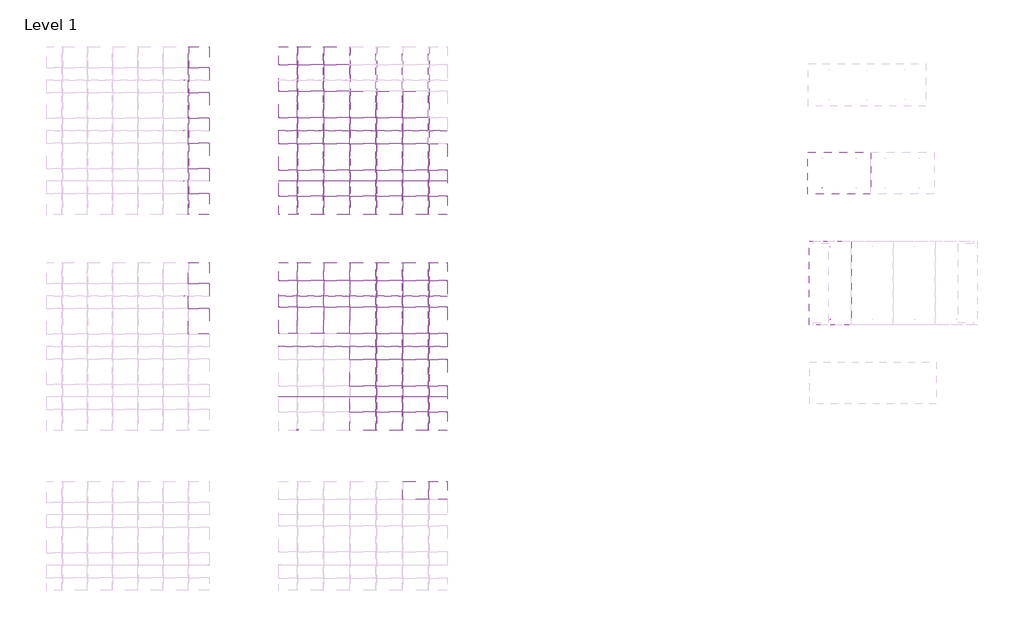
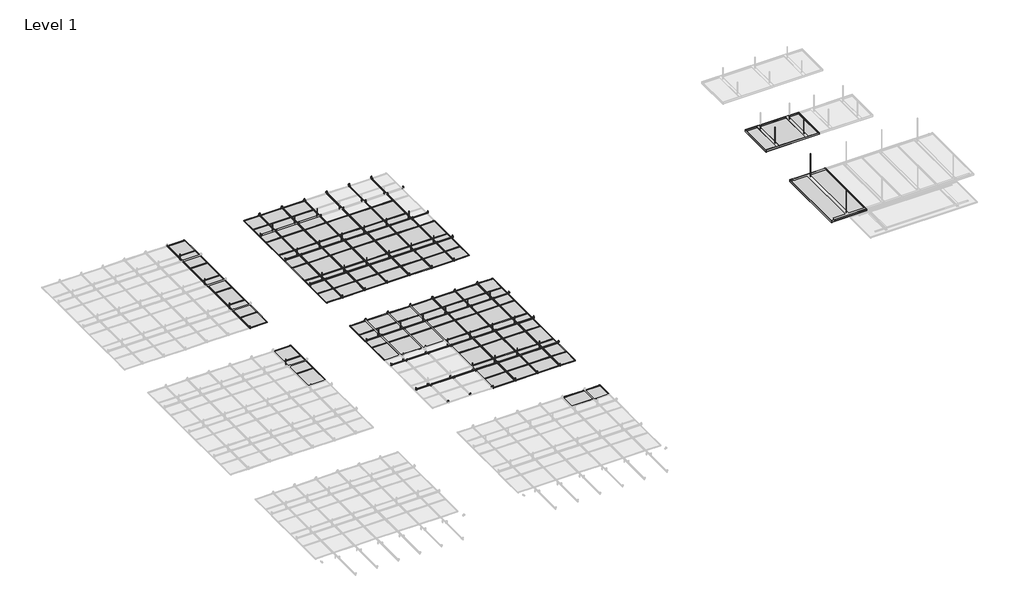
# One storey, part 23 of 32: 141 proxies.
"""IFC4 building model written with IfcOpenShell, lengths in millimetres."""

from ifc_helpers import new_model, si_unit, origin, place, context, project, spatial, transform, mapped, element, save
from components import generic_models_d8b8c2a7, generic_models_84546a59, generic_models_204b18f4, generic_models_e66d4f3b, generic_models_38625c8c, generic_models_629f62d5, generic_models_39815823, generic_models_aa8f36d8, generic_models_26324e2b, generic_models_eb6e0cd6, generic_models_ee13603d, generic_models_6d21b951, generic_models_e5a4eb21

model = new_model("IFC4")

# Units and contexts
model_context = context("Model", 3, world=origin())
ifc_project = project(units=[si_unit("LENGTHUNIT", "METRE", prefix="MILLI")], contexts=[model_context])

# Site, building, storey
site = spatial("IfcSite", under=ifc_project)
building = spatial("IfcBuilding", under=site)
storey = spatial("IfcBuildingStorey", under=building, Name="Level 1", Elevation=0.0)

# Proxies
placement = place(None, origin())
generic_models_shape = generic_models_d8b8c2a7(model_context)
element("IfcBuildingElementProxy", 1, Name="durlum_dur_SOLO_TYPE4_panel : durlum_dur_SOLO_TYPE4_panel", ObjectType="durlum_dur_SOLO_TYPE4_panel : durlum_dur_SOLO_TYPE4_panel", at=placement, inside=storey, context=model_context, shape_type="MappedRepresentation", body=[
    mapped(generic_models_shape, transform((-622.6413925, 21231.524633, 3268.4515177), x_axis=(0.0, 1.0, 0.0), y_axis=(-1.0, 0.0, 0.0), z_axis=(0.0, 0.0, 1.0))),
])
generic_models_2_shape = generic_models_84546a59(model_context)
element("IfcBuildingElementProxy", 2, Name="durlum_threaded_rod_M6 : durlum_threaded_rod_M6", ObjectType="durlum_threaded_rod_M6 : durlum_threaded_rod_M6", at=placement, inside=storey, context=model_context, shape_type="MappedRepresentation", body=[
    mapped(generic_models_2_shape, transform((-15984.1736977, 23658.7392516, 3835.0), x_axis=(1.0, 0.0, 0.0), y_axis=(0.0, 1.0, 0.0), z_axis=(0.0, 0.0, 1.0))),
])
element("IfcBuildingElementProxy", 3, Name="durlum_threaded_rod_M6 : durlum_threaded_rod_M6", ObjectType="durlum_threaded_rod_M6 : durlum_threaded_rod_M6", at=placement, inside=storey, context=model_context, shape_type="MappedRepresentation", body=[
    mapped(generic_models_2_shape, transform((-15984.1736977, 26058.7392516, 3835.0), x_axis=(1.0, 0.0, 0.0), y_axis=(0.0, 1.0, 0.0), z_axis=(0.0, 0.0, 1.0))),
])
element("IfcBuildingElementProxy", 4, Name="durlum_threaded_rod_M6 : durlum_threaded_rod_M6", ObjectType="durlum_threaded_rod_M6 : durlum_threaded_rod_M6", at=placement, inside=storey, context=model_context, shape_type="MappedRepresentation", body=[
    mapped(generic_models_2_shape, transform((-10267.5747393, 23658.7392516, 3835.0), x_axis=(1.0, 0.0, 0.0), y_axis=(0.0, 1.0, 0.0), z_axis=(0.0, 0.0, 1.0))),
])
element("IfcBuildingElementProxy", 5, Name="durlum_threaded_rod_M6 : durlum_threaded_rod_M6", ObjectType="durlum_threaded_rod_M6 : durlum_threaded_rod_M6", at=placement, inside=storey, context=model_context, shape_type="MappedRepresentation", body=[
    mapped(generic_models_2_shape, transform((-13392.5747393, 23658.7392516, 3835.0), x_axis=(1.0, 0.0, 0.0), y_axis=(0.0, 1.0, 0.0), z_axis=(0.0, 0.0, 1.0))),
])
element("IfcBuildingElementProxy", 6, Name="durlum_threaded_rod_M6 : durlum_threaded_rod_M6", ObjectType="durlum_threaded_rod_M6 : durlum_threaded_rod_M6", at=placement, inside=storey, context=model_context, shape_type="MappedRepresentation", body=[
    mapped(generic_models_2_shape, transform((-10892.5747393, 23658.7392516, 3835.0), x_axis=(1.0, 0.0, 0.0), y_axis=(0.0, 1.0, 0.0), z_axis=(0.0, 0.0, 1.0))),
])
element("IfcBuildingElementProxy", 7, Name="durlum_threaded_rod_M6 : durlum_threaded_rod_M6", ObjectType="durlum_threaded_rod_M6 : durlum_threaded_rod_M6", at=placement, inside=storey, context=model_context, shape_type="MappedRepresentation", body=[
    mapped(generic_models_2_shape, transform((-11517.5747393, 23658.7392516, 3835.0), x_axis=(1.0, 0.0, 0.0), y_axis=(0.0, 1.0, 0.0), z_axis=(0.0, 0.0, 1.0))),
])
element("IfcBuildingElementProxy", 8, Name="durlum_threaded_rod_M6 : durlum_threaded_rod_M6", ObjectType="durlum_threaded_rod_M6 : durlum_threaded_rod_M6", at=placement, inside=storey, context=model_context, shape_type="MappedRepresentation", body=[
    mapped(generic_models_2_shape, transform((-13392.5747393, 26058.7392516, 3835.0), x_axis=(1.0, 0.0, 0.0), y_axis=(0.0, 1.0, 0.0), z_axis=(0.0, 0.0, 1.0))),
])
element("IfcBuildingElementProxy", 9, Name="durlum_threaded_rod_M6 : durlum_threaded_rod_M6", ObjectType="durlum_threaded_rod_M6 : durlum_threaded_rod_M6", at=placement, inside=storey, context=model_context, shape_type="MappedRepresentation", body=[
    mapped(generic_models_2_shape, transform((-12142.5747393, 26058.7392516, 3835.0), x_axis=(1.0, 0.0, 0.0), y_axis=(0.0, 1.0, 0.0), z_axis=(0.0, 0.0, 1.0))),
])
element("IfcBuildingElementProxy", 10, Name="durlum_threaded_rod_M6 : durlum_threaded_rod_M6", ObjectType="durlum_threaded_rod_M6 : durlum_threaded_rod_M6", at=placement, inside=storey, context=model_context, shape_type="MappedRepresentation", body=[
    mapped(generic_models_2_shape, transform((-12767.5747393, 26058.7392516, 3835.0), x_axis=(1.0, 0.0, 0.0), y_axis=(0.0, 1.0, 0.0), z_axis=(0.0, 0.0, 1.0))),
])
element("IfcBuildingElementProxy", 11, Name="durlum_threaded_rod_M6 : durlum_threaded_rod_M6", ObjectType="durlum_threaded_rod_M6 : durlum_threaded_rod_M6", at=placement, inside=storey, context=model_context, shape_type="MappedRepresentation", body=[
    mapped(generic_models_2_shape, transform((-12142.5747393, 23658.7392516, 3835.0), x_axis=(1.0, 0.0, 0.0), y_axis=(0.0, 1.0, 0.0), z_axis=(0.0, 0.0, 1.0))),
])
element("IfcBuildingElementProxy", 12, Name="durlum_threaded_rod_M6 : durlum_threaded_rod_M6", ObjectType="durlum_threaded_rod_M6 : durlum_threaded_rod_M6", at=placement, inside=storey, context=model_context, shape_type="MappedRepresentation", body=[
    mapped(generic_models_2_shape, transform((-12767.5747393, 23658.7392516, 3835.0), x_axis=(1.0, 0.0, 0.0), y_axis=(0.0, 1.0, 0.0), z_axis=(0.0, 0.0, 1.0))),
])
element("IfcBuildingElementProxy", 13, Name="durlum_threaded_rod_M6 : durlum_threaded_rod_M6", ObjectType="durlum_threaded_rod_M6 : durlum_threaded_rod_M6", at=placement, inside=storey, context=model_context, shape_type="MappedRepresentation", body=[
    mapped(generic_models_2_shape, transform((-12142.5747393, 24858.7392516, 3835.0), x_axis=(1.0, 0.0, 0.0), y_axis=(0.0, 1.0, 0.0), z_axis=(0.0, 0.0, 1.0))),
])
element("IfcBuildingElementProxy", 14, Name="durlum_threaded_rod_M6 : durlum_threaded_rod_M6", ObjectType="durlum_threaded_rod_M6 : durlum_threaded_rod_M6", at=placement, inside=storey, context=model_context, shape_type="MappedRepresentation", body=[
    mapped(generic_models_2_shape, transform((-12767.5747393, 24858.7392516, 3835.0), x_axis=(1.0, 0.0, 0.0), y_axis=(0.0, 1.0, 0.0), z_axis=(0.0, 0.0, 1.0))),
])
element("IfcBuildingElementProxy", 15, Name="durlum_threaded_rod_M6 : durlum_threaded_rod_M6", ObjectType="durlum_threaded_rod_M6 : durlum_threaded_rod_M6", at=placement, inside=storey, context=model_context, shape_type="MappedRepresentation", body=[
    mapped(generic_models_2_shape, transform((-10267.5747393, 24858.7392516, 3835.0), x_axis=(1.0, 0.0, 0.0), y_axis=(0.0, 1.0, 0.0), z_axis=(0.0, 0.0, 1.0))),
])
element("IfcBuildingElementProxy", 16, Name="durlum_threaded_rod_M6 : durlum_threaded_rod_M6", ObjectType="durlum_threaded_rod_M6 : durlum_threaded_rod_M6", at=placement, inside=storey, context=model_context, shape_type="MappedRepresentation", body=[
    mapped(generic_models_2_shape, transform((-13392.5747393, 24858.7392516, 3835.0), x_axis=(1.0, 0.0, 0.0), y_axis=(0.0, 1.0, 0.0), z_axis=(0.0, 0.0, 1.0))),
])
element("IfcBuildingElementProxy", 17, Name="durlum_threaded_rod_M6 : durlum_threaded_rod_M6", ObjectType="durlum_threaded_rod_M6 : durlum_threaded_rod_M6", at=placement, inside=storey, context=model_context, shape_type="MappedRepresentation", body=[
    mapped(generic_models_2_shape, transform((-10892.5747393, 24858.7392516, 3835.0), x_axis=(1.0, 0.0, 0.0), y_axis=(0.0, 1.0, 0.0), z_axis=(0.0, 0.0, 1.0))),
])
element("IfcBuildingElementProxy", 18, Name="durlum_threaded_rod_M6 : durlum_threaded_rod_M6", ObjectType="durlum_threaded_rod_M6 : durlum_threaded_rod_M6", at=placement, inside=storey, context=model_context, shape_type="MappedRepresentation", body=[
    mapped(generic_models_2_shape, transform((-11517.5747393, 24858.7392516, 3835.0), x_axis=(1.0, 0.0, 0.0), y_axis=(0.0, 1.0, 0.0), z_axis=(0.0, 0.0, 1.0))),
])
element("IfcBuildingElementProxy", 19, Name="durlum_threaded_rod_M6 : durlum_threaded_rod_M6", ObjectType="durlum_threaded_rod_M6 : durlum_threaded_rod_M6", at=placement, inside=storey, context=model_context, shape_type="MappedRepresentation", body=[
    mapped(generic_models_2_shape, transform((-15984.1736977, 24858.7392516, 3835.0), x_axis=(1.0, 0.0, 0.0), y_axis=(0.0, 1.0, 0.0), z_axis=(0.0, 0.0, 1.0))),
])
element("IfcBuildingElementProxy", 20, Name="durlum_threaded_rod_M6 : durlum_threaded_rod_M6", ObjectType="durlum_threaded_rod_M6 : durlum_threaded_rod_M6", at=placement, inside=storey, context=model_context, shape_type="MappedRepresentation", body=[
    mapped(generic_models_2_shape, transform((-10267.5747393, 18522.4548964, 3835.0), x_axis=(1.0, 0.0, 0.0), y_axis=(0.0, 1.0, 0.0), z_axis=(0.0, 0.0, 1.0))),
])
element("IfcBuildingElementProxy", 21, Name="durlum_threaded_rod_M6 : durlum_threaded_rod_M6", ObjectType="durlum_threaded_rod_M6 : durlum_threaded_rod_M6", at=placement, inside=storey, context=model_context, shape_type="MappedRepresentation", body=[
    mapped(generic_models_2_shape, transform((-10892.5747393, 18522.4548964, 3835.0), x_axis=(1.0, 0.0, 0.0), y_axis=(0.0, 1.0, 0.0), z_axis=(0.0, 0.0, 1.0))),
])
element("IfcBuildingElementProxy", 22, Name="durlum_threaded_rod_M6 : durlum_threaded_rod_M6", ObjectType="durlum_threaded_rod_M6 : durlum_threaded_rod_M6", at=placement, inside=storey, context=model_context, shape_type="MappedRepresentation", body=[
    mapped(generic_models_2_shape, transform((-11517.5747393, 18522.4548964, 3835.0), x_axis=(1.0, 0.0, 0.0), y_axis=(0.0, 1.0, 0.0), z_axis=(0.0, 0.0, 1.0))),
])
element("IfcBuildingElementProxy", 23, Name="durlum_threaded_rod_M6 : durlum_threaded_rod_M6", ObjectType="durlum_threaded_rod_M6 : durlum_threaded_rod_M6", at=placement, inside=storey, context=model_context, shape_type="MappedRepresentation", body=[
    mapped(generic_models_2_shape, transform((-10267.5747393, 20922.4548964, 3835.0), x_axis=(1.0, 0.0, 0.0), y_axis=(0.0, 1.0, 0.0), z_axis=(0.0, 0.0, 1.0))),
])
element("IfcBuildingElementProxy", 24, Name="durlum_threaded_rod_M6 : durlum_threaded_rod_M6", ObjectType="durlum_threaded_rod_M6 : durlum_threaded_rod_M6", at=placement, inside=storey, context=model_context, shape_type="MappedRepresentation", body=[
    mapped(generic_models_2_shape, transform((-13392.5747393, 20922.4548964, 3835.0), x_axis=(1.0, 0.0, 0.0), y_axis=(0.0, 1.0, 0.0), z_axis=(0.0, 0.0, 1.0))),
])
element("IfcBuildingElementProxy", 25, Name="durlum_threaded_rod_M6 : durlum_threaded_rod_M6", ObjectType="durlum_threaded_rod_M6 : durlum_threaded_rod_M6", at=placement, inside=storey, context=model_context, shape_type="MappedRepresentation", body=[
    mapped(generic_models_2_shape, transform((-10892.5747393, 20922.4548964, 3835.0), x_axis=(1.0, 0.0, 0.0), y_axis=(0.0, 1.0, 0.0), z_axis=(0.0, 0.0, 1.0))),
])
element("IfcBuildingElementProxy", 26, Name="durlum_threaded_rod_M6 : durlum_threaded_rod_M6", ObjectType="durlum_threaded_rod_M6 : durlum_threaded_rod_M6", at=placement, inside=storey, context=model_context, shape_type="MappedRepresentation", body=[
    mapped(generic_models_2_shape, transform((-11517.5747393, 20922.4548964, 3835.0), x_axis=(1.0, 0.0, 0.0), y_axis=(0.0, 1.0, 0.0), z_axis=(0.0, 0.0, 1.0))),
])
element("IfcBuildingElementProxy", 27, Name="durlum_threaded_rod_M6 : durlum_threaded_rod_M6", ObjectType="durlum_threaded_rod_M6 : durlum_threaded_rod_M6", at=placement, inside=storey, context=model_context, shape_type="MappedRepresentation", body=[
    mapped(generic_models_2_shape, transform((-12142.5747393, 20922.4548964, 3835.0), x_axis=(1.0, 0.0, 0.0), y_axis=(0.0, 1.0, 0.0), z_axis=(0.0, 0.0, 1.0))),
])
element("IfcBuildingElementProxy", 28, Name="durlum_threaded_rod_M6 : durlum_threaded_rod_M6", ObjectType="durlum_threaded_rod_M6 : durlum_threaded_rod_M6", at=placement, inside=storey, context=model_context, shape_type="MappedRepresentation", body=[
    mapped(generic_models_2_shape, transform((-12767.5747393, 20922.4548964, 3835.0), x_axis=(1.0, 0.0, 0.0), y_axis=(0.0, 1.0, 0.0), z_axis=(0.0, 0.0, 1.0))),
])
element("IfcBuildingElementProxy", 29, Name="durlum_threaded_rod_M6 : durlum_threaded_rod_M6", ObjectType="durlum_threaded_rod_M6 : durlum_threaded_rod_M6", at=placement, inside=storey, context=model_context, shape_type="MappedRepresentation", body=[
    mapped(generic_models_2_shape, transform((-15984.1736977, 20922.4548964, 3835.0), x_axis=(1.0, 0.0, 0.0), y_axis=(0.0, 1.0, 0.0), z_axis=(0.0, 0.0, 1.0))),
])
element("IfcBuildingElementProxy", 30, Name="durlum_threaded_rod_M6 : durlum_threaded_rod_M6", ObjectType="durlum_threaded_rod_M6 : durlum_threaded_rod_M6", at=placement, inside=storey, context=model_context, shape_type="MappedRepresentation", body=[
    mapped(generic_models_2_shape, transform((-10267.5747393, 19722.4548964, 3835.0), x_axis=(1.0, 0.0, 0.0), y_axis=(0.0, 1.0, 0.0), z_axis=(0.0, 0.0, 1.0))),
])
element("IfcBuildingElementProxy", 31, Name="durlum_threaded_rod_M6 : durlum_threaded_rod_M6", ObjectType="durlum_threaded_rod_M6 : durlum_threaded_rod_M6", at=placement, inside=storey, context=model_context, shape_type="MappedRepresentation", body=[
    mapped(generic_models_2_shape, transform((-10892.5747393, 19722.4548964, 3835.0), x_axis=(1.0, 0.0, 0.0), y_axis=(0.0, 1.0, 0.0), z_axis=(0.0, 0.0, 1.0))),
])
element("IfcBuildingElementProxy", 32, Name="durlum_threaded_rod_M6 : durlum_threaded_rod_M6", ObjectType="durlum_threaded_rod_M6 : durlum_threaded_rod_M6", at=placement, inside=storey, context=model_context, shape_type="MappedRepresentation", body=[
    mapped(generic_models_2_shape, transform((-11517.5747393, 19722.4548964, 3835.0), x_axis=(1.0, 0.0, 0.0), y_axis=(0.0, 1.0, 0.0), z_axis=(0.0, 0.0, 1.0))),
])
generic_models_3_shape = generic_models_204b18f4(model_context)
element("IfcBuildingElementProxy", 33, Name="durlum_threaded_rod_M6 : durlum_threaded_rod_M6", ObjectType="durlum_threaded_rod_M6 : durlum_threaded_rod_M6", at=placement, inside=storey, context=model_context, shape_type="MappedRepresentation", body=[
    mapped(generic_models_3_shape, transform((-622.6413925, 22098.524633, 3317.4515177), x_axis=(0.0, 1.0, 0.0), y_axis=(-1.0, 0.0, 0.0), z_axis=(0.0, 0.0, 1.0))),
])
element("IfcBuildingElementProxy", 34, Name="durlum_threaded_rod_M6 : durlum_threaded_rod_M6", ObjectType="durlum_threaded_rod_M6 : durlum_threaded_rod_M6", at=placement, inside=storey, context=model_context, shape_type="MappedRepresentation", body=[
    mapped(generic_models_3_shape, transform((-622.6413925, 20364.524633, 3317.4515177), x_axis=(0.0, 1.0, 0.0), y_axis=(-1.0, 0.0, 0.0), z_axis=(0.0, 0.0, 1.0))),
])
generic_models_4_shape = generic_models_e66d4f3b(model_context)
element("IfcBuildingElementProxy", 35, Name="durlum_threaded_rod_M6 : durlum_threaded_rod_M6", ObjectType="durlum_threaded_rod_M6 : durlum_threaded_rod_M6", at=placement, inside=storey, context=model_context, shape_type="MappedRepresentation", body=[
    mapped(generic_models_4_shape, transform((-809.9829279, 23495.3772869, 3528.2982312), x_axis=(0.0, -1.0, 0.0), y_axis=(1.0, 0.0, 0.0), z_axis=(0.0, 0.0, 1.0))),
])
generic_models_5_shape = generic_models_38625c8c(model_context)
element("IfcBuildingElementProxy", 36, Name="durlum_U1000 : durlum_U1000", ObjectType="durlum_U1000 : durlum_U1000", at=placement, inside=storey, context=model_context, shape_type="MappedRepresentation", body=[
    mapped(generic_models_5_shape, transform((-15884.1736977, 24858.7392516, 3712.8202962), x_axis=(0.0, 1.0, 0.0), y_axis=(-1.0, 0.0, 0.0), z_axis=(0.0, 0.0, 1.0))),
])
element("IfcBuildingElementProxy", 37, Name="durlum_U1000 : durlum_U1000", ObjectType="durlum_U1000 : durlum_U1000", at=placement, inside=storey, context=model_context, shape_type="MappedRepresentation", body=[
    mapped(generic_models_5_shape, transform((-11730.0747393, 23658.7392516, 3754.5054063), x_axis=(1.0, 0.0, 0.0), y_axis=(0.0, 1.0, 0.0), z_axis=(0.0, 0.0, 1.0))),
])
element("IfcBuildingElementProxy", 38, Name="durlum_U1000 : durlum_U1000", ObjectType="durlum_U1000 : durlum_U1000", at=placement, inside=storey, context=model_context, shape_type="MappedRepresentation", body=[
    mapped(generic_models_5_shape, transform((-11417.5747393, 24858.7392516, 3712.8202962), x_axis=(0.0, 1.0, 0.0), y_axis=(-1.0, 0.0, 0.0), z_axis=(0.0, 0.0, 1.0))),
])
element("IfcBuildingElementProxy", 39, Name="durlum_U1000 : durlum_U1000", ObjectType="durlum_U1000 : durlum_U1000", at=placement, inside=storey, context=model_context, shape_type="MappedRepresentation", body=[
    mapped(generic_models_5_shape, transform((-10792.5747393, 24858.7392516, 3712.8202962), x_axis=(0.0, 1.0, 0.0), y_axis=(-1.0, 0.0, 0.0), z_axis=(0.0, 0.0, 1.0))),
])
element("IfcBuildingElementProxy", 40, Name="durlum_U1000 : durlum_U1000", ObjectType="durlum_U1000 : durlum_U1000", at=placement, inside=storey, context=model_context, shape_type="MappedRepresentation", body=[
    mapped(generic_models_5_shape, transform((-13292.5747393, 24858.7392516, 3712.8202962), x_axis=(0.0, 1.0, 0.0), y_axis=(-1.0, 0.0, 0.0), z_axis=(0.0, 0.0, 1.0))),
])
element("IfcBuildingElementProxy", 41, Name="durlum_U1000 : durlum_U1000", ObjectType="durlum_U1000 : durlum_U1000", at=placement, inside=storey, context=model_context, shape_type="MappedRepresentation", body=[
    mapped(generic_models_5_shape, transform((-10167.5747393, 24858.7392516, 3712.8202962), x_axis=(0.0, 1.0, 0.0), y_axis=(-1.0, 0.0, 0.0), z_axis=(0.0, 0.0, 1.0))),
])
element("IfcBuildingElementProxy", 42, Name="durlum_U1000 : durlum_U1000", ObjectType="durlum_U1000 : durlum_U1000", at=placement, inside=storey, context=model_context, shape_type="MappedRepresentation", body=[
    mapped(generic_models_5_shape, transform((-11730.0747393, 24858.7392516, 3754.5054063), x_axis=(1.0, 0.0, 0.0), y_axis=(0.0, 1.0, 0.0), z_axis=(0.0, 0.0, 1.0))),
])
element("IfcBuildingElementProxy", 43, Name="durlum_U1000 : durlum_U1000", ObjectType="durlum_U1000 : durlum_U1000", at=placement, inside=storey, context=model_context, shape_type="MappedRepresentation", body=[
    mapped(generic_models_5_shape, transform((-12667.5747393, 24858.7392516, 3712.8202962), x_axis=(0.0, 1.0, 0.0), y_axis=(-1.0, 0.0, 0.0), z_axis=(0.0, 0.0, 1.0))),
])
element("IfcBuildingElementProxy", 44, Name="durlum_U1000 : durlum_U1000", ObjectType="durlum_U1000 : durlum_U1000", at=placement, inside=storey, context=model_context, shape_type="MappedRepresentation", body=[
    mapped(generic_models_5_shape, transform((-12042.5747393, 24858.7392516, 3712.8202962), x_axis=(0.0, 1.0, 0.0), y_axis=(-1.0, 0.0, 0.0), z_axis=(0.0, 0.0, 1.0))),
])
element("IfcBuildingElementProxy", 45, Name="durlum_U1000 : durlum_U1000", ObjectType="durlum_U1000 : durlum_U1000", at=placement, inside=storey, context=model_context, shape_type="MappedRepresentation", body=[
    mapped(generic_models_5_shape, transform((-11730.0747393, 18522.4548964, 3754.5054063), x_axis=(1.0, 0.0, 0.0), y_axis=(0.0, 1.0, 0.0), z_axis=(0.0, 0.0, 1.0))),
])
element("IfcBuildingElementProxy", 46, Name="durlum_U1000 : durlum_U1000", ObjectType="durlum_U1000 : durlum_U1000", at=placement, inside=storey, context=model_context, shape_type="MappedRepresentation", body=[
    mapped(generic_models_5_shape, transform((-11730.0747393, 20922.4548964, 3754.5054063), x_axis=(1.0, 0.0, 0.0), y_axis=(0.0, 1.0, 0.0), z_axis=(0.0, 0.0, 1.0))),
])
element("IfcBuildingElementProxy", 47, Name="durlum_U1000 : durlum_U1000", ObjectType="durlum_U1000 : durlum_U1000", at=placement, inside=storey, context=model_context, shape_type="MappedRepresentation", body=[
    mapped(generic_models_5_shape, transform((-11417.5747393, 19722.4548964, 3712.8202962), x_axis=(0.0, 1.0, 0.0), y_axis=(-1.0, 0.0, 0.0), z_axis=(0.0, 0.0, 1.0))),
])
element("IfcBuildingElementProxy", 48, Name="durlum_U1000 : durlum_U1000", ObjectType="durlum_U1000 : durlum_U1000", at=placement, inside=storey, context=model_context, shape_type="MappedRepresentation", body=[
    mapped(generic_models_5_shape, transform((-10792.5747393, 19722.4548964, 3712.8202962), x_axis=(0.0, 1.0, 0.0), y_axis=(-1.0, 0.0, 0.0), z_axis=(0.0, 0.0, 1.0))),
])
element("IfcBuildingElementProxy", 49, Name="durlum_U1000 : durlum_U1000", ObjectType="durlum_U1000 : durlum_U1000", at=placement, inside=storey, context=model_context, shape_type="MappedRepresentation", body=[
    mapped(generic_models_5_shape, transform((-10167.5747393, 19722.4548964, 3712.8202962), x_axis=(0.0, 1.0, 0.0), y_axis=(-1.0, 0.0, 0.0), z_axis=(0.0, 0.0, 1.0))),
])
element("IfcBuildingElementProxy", 50, Name="durlum_U1000 : durlum_U1000", ObjectType="durlum_U1000 : durlum_U1000", at=placement, inside=storey, context=model_context, shape_type="MappedRepresentation", body=[
    mapped(generic_models_5_shape, transform((-11730.0747393, 19722.4548964, 3754.5054063), x_axis=(1.0, 0.0, 0.0), y_axis=(0.0, 1.0, 0.0), z_axis=(0.0, 0.0, 1.0))),
])
generic_models_6_shape = generic_models_629f62d5(model_context)
element("IfcBuildingElementProxy", 51, Name="durlum_dur_SOLO_TYPE2_panel : durlum_dur_SOLO_TYPE2_panel", ObjectType="durlum_dur_SOLO_TYPE2_panel : durlum_dur_SOLO_TYPE2_panel", at=placement, inside=storey, context=model_context, shape_type="MappedRepresentation", body=[
    mapped(generic_models_6_shape, transform((-404.9829279, 23845.3772869, 3478.2982312), x_axis=(1.0, 0.0, 0.0), y_axis=(0.0, 1.0, 0.0), z_axis=(0.0, 0.0, 1.0))),
])
generic_models_7_shape = generic_models_39815823(model_context)
element("IfcBuildingElementProxy", 52, Name="durlum_S1_panel : durlum_S1_panel", ObjectType="durlum_S1_panel : durlum_S1_panel", at=placement, inside=storey, context=model_context, shape_type="MappedRepresentation", body=[
    mapped(generic_models_7_shape, transform((-12355.0747393, 25483.7392516, 3700.0), x_axis=(1.0, 0.0, 0.0), y_axis=(0.0, 1.0, 0.0), z_axis=(0.0, 0.0, 1.0))),
])
element("IfcBuildingElementProxy", 53, Name="durlum_S1_panel : durlum_S1_panel", ObjectType="durlum_S1_panel : durlum_S1_panel", at=placement, inside=storey, context=model_context, shape_type="MappedRepresentation", body=[
    mapped(generic_models_7_shape, transform((-12355.0747393, 23608.7392516, 3700.0), x_axis=(1.0, 0.0, 0.0), y_axis=(0.0, 1.0, 0.0), z_axis=(0.0, 0.0, 1.0))),
])
element("IfcBuildingElementProxy", 54, Name="durlum_S1_panel : durlum_S1_panel", ObjectType="durlum_S1_panel : durlum_S1_panel", at=placement, inside=storey, context=model_context, shape_type="MappedRepresentation", body=[
    mapped(generic_models_7_shape, transform((-12355.0747393, 26108.7392516, 3700.0), x_axis=(1.0, 0.0, 0.0), y_axis=(0.0, 1.0, 0.0), z_axis=(0.0, 0.0, 1.0))),
])
element("IfcBuildingElementProxy", 55, Name="durlum_S1_panel : durlum_S1_panel", ObjectType="durlum_S1_panel : durlum_S1_panel", at=placement, inside=storey, context=model_context, shape_type="MappedRepresentation", body=[
    mapped(generic_models_7_shape, transform((-12980.0747393, 25483.7392516, 3700.0), x_axis=(1.0, 0.0, 0.0), y_axis=(0.0, 1.0, 0.0), z_axis=(0.0, 0.0, 1.0))),
])
element("IfcBuildingElementProxy", 56, Name="durlum_S1_panel : durlum_S1_panel", ObjectType="durlum_S1_panel : durlum_S1_panel", at=placement, inside=storey, context=model_context, shape_type="MappedRepresentation", body=[
    mapped(generic_models_7_shape, transform((-10480.0747393, 25483.7392516, 3700.0), x_axis=(1.0, 0.0, 0.0), y_axis=(0.0, 1.0, 0.0), z_axis=(0.0, 0.0, 1.0))),
])
element("IfcBuildingElementProxy", 57, Name="durlum_S1_panel : durlum_S1_panel", ObjectType="durlum_S1_panel : durlum_S1_panel", at=placement, inside=storey, context=model_context, shape_type="MappedRepresentation", body=[
    mapped(generic_models_7_shape, transform((-12980.0747393, 23608.7392516, 3700.0), x_axis=(1.0, 0.0, 0.0), y_axis=(0.0, 1.0, 0.0), z_axis=(0.0, 0.0, 1.0))),
])
element("IfcBuildingElementProxy", 58, Name="durlum_S1_panel : durlum_S1_panel", ObjectType="durlum_S1_panel : durlum_S1_panel", at=placement, inside=storey, context=model_context, shape_type="MappedRepresentation", body=[
    mapped(generic_models_7_shape, transform((-10480.0747393, 23608.7392516, 3700.0), x_axis=(1.0, 0.0, 0.0), y_axis=(0.0, 1.0, 0.0), z_axis=(0.0, 0.0, 1.0))),
])
element("IfcBuildingElementProxy", 59, Name="durlum_S1_panel : durlum_S1_panel", ObjectType="durlum_S1_panel : durlum_S1_panel", at=placement, inside=storey, context=model_context, shape_type="MappedRepresentation", body=[
    mapped(generic_models_7_shape, transform((-12980.0747393, 26108.7392516, 3700.0), x_axis=(1.0, 0.0, 0.0), y_axis=(0.0, 1.0, 0.0), z_axis=(0.0, 0.0, 1.0))),
])
element("IfcBuildingElementProxy", 60, Name="durlum_S1_panel : durlum_S1_panel", ObjectType="durlum_S1_panel : durlum_S1_panel", at=placement, inside=storey, context=model_context, shape_type="MappedRepresentation", body=[
    mapped(generic_models_7_shape, transform((-11730.0747393, 23608.7392516, 3700.0), x_axis=(1.0, 0.0, 0.0), y_axis=(0.0, 1.0, 0.0), z_axis=(0.0, 0.0, 1.0))),
])
element("IfcBuildingElementProxy", 61, Name="durlum_S1_panel : durlum_S1_panel", ObjectType="durlum_S1_panel : durlum_S1_panel", at=placement, inside=storey, context=model_context, shape_type="MappedRepresentation", body=[
    mapped(generic_models_7_shape, transform((-11105.0747393, 23608.7392516, 3700.0), x_axis=(1.0, 0.0, 0.0), y_axis=(0.0, 1.0, 0.0), z_axis=(0.0, 0.0, 1.0))),
])
element("IfcBuildingElementProxy", 62, Name="durlum_S1_panel : durlum_S1_panel", ObjectType="durlum_S1_panel : durlum_S1_panel", at=placement, inside=storey, context=model_context, shape_type="MappedRepresentation", body=[
    mapped(generic_models_7_shape, transform((-11730.0747393, 25483.7392516, 3700.0), x_axis=(1.0, 0.0, 0.0), y_axis=(0.0, 1.0, 0.0), z_axis=(0.0, 0.0, 1.0))),
])
element("IfcBuildingElementProxy", 63, Name="durlum_S1_panel : durlum_S1_panel", ObjectType="durlum_S1_panel : durlum_S1_panel", at=placement, inside=storey, context=model_context, shape_type="MappedRepresentation", body=[
    mapped(generic_models_7_shape, transform((-11105.0747393, 25483.7392516, 3700.0), x_axis=(1.0, 0.0, 0.0), y_axis=(0.0, 1.0, 0.0), z_axis=(0.0, 0.0, 1.0))),
])
element("IfcBuildingElementProxy", 64, Name="durlum_S1_panel : durlum_S1_panel", ObjectType="durlum_S1_panel : durlum_S1_panel", at=placement, inside=storey, context=model_context, shape_type="MappedRepresentation", body=[
    mapped(generic_models_7_shape, transform((-11730.0747393, 24233.7392516, 3700.0), x_axis=(1.0, 0.0, 0.0), y_axis=(0.0, 1.0, 0.0), z_axis=(0.0, 0.0, 1.0))),
])
element("IfcBuildingElementProxy", 65, Name="durlum_S1_panel : durlum_S1_panel", ObjectType="durlum_S1_panel : durlum_S1_panel", at=placement, inside=storey, context=model_context, shape_type="MappedRepresentation", body=[
    mapped(generic_models_7_shape, transform((-11105.0747393, 24233.7392516, 3700.0), x_axis=(1.0, 0.0, 0.0), y_axis=(0.0, 1.0, 0.0), z_axis=(0.0, 0.0, 1.0))),
])
element("IfcBuildingElementProxy", 66, Name="durlum_S1_panel : durlum_S1_panel", ObjectType="durlum_S1_panel : durlum_S1_panel", at=placement, inside=storey, context=model_context, shape_type="MappedRepresentation", body=[
    mapped(generic_models_7_shape, transform((-12355.0747393, 24233.7392516, 3700.0), x_axis=(1.0, 0.0, 0.0), y_axis=(0.0, 1.0, 0.0), z_axis=(0.0, 0.0, 1.0))),
])
element("IfcBuildingElementProxy", 67, Name="durlum_S1_panel : durlum_S1_panel", ObjectType="durlum_S1_panel : durlum_S1_panel", at=placement, inside=storey, context=model_context, shape_type="MappedRepresentation", body=[
    mapped(generic_models_7_shape, transform((-12980.0747393, 24233.7392516, 3700.0), x_axis=(1.0, 0.0, 0.0), y_axis=(0.0, 1.0, 0.0), z_axis=(0.0, 0.0, 1.0))),
])
element("IfcBuildingElementProxy", 68, Name="durlum_S1_panel : durlum_S1_panel", ObjectType="durlum_S1_panel : durlum_S1_panel", at=placement, inside=storey, context=model_context, shape_type="MappedRepresentation", body=[
    mapped(generic_models_7_shape, transform((-10480.0747393, 24233.7392516, 3700.0), x_axis=(1.0, 0.0, 0.0), y_axis=(0.0, 1.0, 0.0), z_axis=(0.0, 0.0, 1.0))),
])
element("IfcBuildingElementProxy", 69, Name="durlum_S1_panel : durlum_S1_panel", ObjectType="durlum_S1_panel : durlum_S1_panel", at=placement, inside=storey, context=model_context, shape_type="MappedRepresentation", body=[
    mapped(generic_models_7_shape, transform((-11730.0747393, 24858.7392516, 3700.0), x_axis=(1.0, 0.0, 0.0), y_axis=(0.0, 1.0, 0.0), z_axis=(0.0, 0.0, 1.0))),
])
element("IfcBuildingElementProxy", 70, Name="durlum_S1_panel : durlum_S1_panel", ObjectType="durlum_S1_panel : durlum_S1_panel", at=placement, inside=storey, context=model_context, shape_type="MappedRepresentation", body=[
    mapped(generic_models_7_shape, transform((-11105.0747393, 24858.7392516, 3700.0), x_axis=(1.0, 0.0, 0.0), y_axis=(0.0, 1.0, 0.0), z_axis=(0.0, 0.0, 1.0))),
])
element("IfcBuildingElementProxy", 71, Name="durlum_S1_panel : durlum_S1_panel", ObjectType="durlum_S1_panel : durlum_S1_panel", at=placement, inside=storey, context=model_context, shape_type="MappedRepresentation", body=[
    mapped(generic_models_7_shape, transform((-12355.0747393, 24858.7392516, 3700.0), x_axis=(1.0, 0.0, 0.0), y_axis=(0.0, 1.0, 0.0), z_axis=(0.0, 0.0, 1.0))),
])
element("IfcBuildingElementProxy", 72, Name="durlum_S1_panel : durlum_S1_panel", ObjectType="durlum_S1_panel : durlum_S1_panel", at=placement, inside=storey, context=model_context, shape_type="MappedRepresentation", body=[
    mapped(generic_models_7_shape, transform((-12980.0747393, 24858.7392516, 3700.0), x_axis=(1.0, 0.0, 0.0), y_axis=(0.0, 1.0, 0.0), z_axis=(0.0, 0.0, 1.0))),
])
element("IfcBuildingElementProxy", 73, Name="durlum_S1_panel : durlum_S1_panel", ObjectType="durlum_S1_panel : durlum_S1_panel", at=placement, inside=storey, context=model_context, shape_type="MappedRepresentation", body=[
    mapped(generic_models_7_shape, transform((-10480.0747393, 24858.7392516, 3700.0), x_axis=(1.0, 0.0, 0.0), y_axis=(0.0, 1.0, 0.0), z_axis=(0.0, 0.0, 1.0))),
])
element("IfcBuildingElementProxy", 74, Name="durlum_S1_panel : durlum_S1_panel", ObjectType="durlum_S1_panel : durlum_S1_panel", at=placement, inside=storey, context=model_context, shape_type="MappedRepresentation", body=[
    mapped(generic_models_7_shape, transform((-10480.0747393, 19722.4548964, 3700.0), x_axis=(1.0, 0.0, 0.0), y_axis=(0.0, 1.0, 0.0), z_axis=(0.0, 0.0, 1.0))),
])
element("IfcBuildingElementProxy", 75, Name="durlum_S1_panel : durlum_S1_panel", ObjectType="durlum_S1_panel : durlum_S1_panel", at=placement, inside=storey, context=model_context, shape_type="MappedRepresentation", body=[
    mapped(generic_models_7_shape, transform((-12355.0747393, 20347.4548964, 3700.0), x_axis=(1.0, 0.0, 0.0), y_axis=(0.0, 1.0, 0.0), z_axis=(0.0, 0.0, 1.0))),
])
element("IfcBuildingElementProxy", 76, Name="durlum_S1_panel : durlum_S1_panel", ObjectType="durlum_S1_panel : durlum_S1_panel", at=placement, inside=storey, context=model_context, shape_type="MappedRepresentation", body=[
    mapped(generic_models_7_shape, transform((-12355.0747393, 20972.4548964, 3700.0), x_axis=(1.0, 0.0, 0.0), y_axis=(0.0, 1.0, 0.0), z_axis=(0.0, 0.0, 1.0))),
])
element("IfcBuildingElementProxy", 77, Name="durlum_S1_panel : durlum_S1_panel", ObjectType="durlum_S1_panel : durlum_S1_panel", at=placement, inside=storey, context=model_context, shape_type="MappedRepresentation", body=[
    mapped(generic_models_7_shape, transform((-12980.0747393, 20347.4548964, 3700.0), x_axis=(1.0, 0.0, 0.0), y_axis=(0.0, 1.0, 0.0), z_axis=(0.0, 0.0, 1.0))),
])
element("IfcBuildingElementProxy", 78, Name="durlum_S1_panel : durlum_S1_panel", ObjectType="durlum_S1_panel : durlum_S1_panel", at=placement, inside=storey, context=model_context, shape_type="MappedRepresentation", body=[
    mapped(generic_models_7_shape, transform((-10480.0747393, 20347.4548964, 3700.0), x_axis=(1.0, 0.0, 0.0), y_axis=(0.0, 1.0, 0.0), z_axis=(0.0, 0.0, 1.0))),
])
element("IfcBuildingElementProxy", 79, Name="durlum_S1_panel : durlum_S1_panel", ObjectType="durlum_S1_panel : durlum_S1_panel", at=placement, inside=storey, context=model_context, shape_type="MappedRepresentation", body=[
    mapped(generic_models_7_shape, transform((-10480.0747393, 18472.4548964, 3700.0), x_axis=(1.0, 0.0, 0.0), y_axis=(0.0, 1.0, 0.0), z_axis=(0.0, 0.0, 1.0))),
])
element("IfcBuildingElementProxy", 80, Name="durlum_S1_panel : durlum_S1_panel", ObjectType="durlum_S1_panel : durlum_S1_panel", at=placement, inside=storey, context=model_context, shape_type="MappedRepresentation", body=[
    mapped(generic_models_7_shape, transform((-12980.0747393, 20972.4548964, 3700.0), x_axis=(1.0, 0.0, 0.0), y_axis=(0.0, 1.0, 0.0), z_axis=(0.0, 0.0, 1.0))),
])
element("IfcBuildingElementProxy", 81, Name="durlum_S1_panel : durlum_S1_panel", ObjectType="durlum_S1_panel : durlum_S1_panel", at=placement, inside=storey, context=model_context, shape_type="MappedRepresentation", body=[
    mapped(generic_models_7_shape, transform((-10480.0747393, 20972.4548964, 3700.0), x_axis=(1.0, 0.0, 0.0), y_axis=(0.0, 1.0, 0.0), z_axis=(0.0, 0.0, 1.0))),
])
element("IfcBuildingElementProxy", 82, Name="durlum_S1_panel : durlum_S1_panel", ObjectType="durlum_S1_panel : durlum_S1_panel", at=placement, inside=storey, context=model_context, shape_type="MappedRepresentation", body=[
    mapped(generic_models_7_shape, transform((-11105.0747393, 18472.4548964, 3700.0), x_axis=(1.0, 0.0, 0.0), y_axis=(0.0, 1.0, 0.0), z_axis=(0.0, 0.0, 1.0))),
])
element("IfcBuildingElementProxy", 83, Name="durlum_S1_panel : durlum_S1_panel", ObjectType="durlum_S1_panel : durlum_S1_panel", at=placement, inside=storey, context=model_context, shape_type="MappedRepresentation", body=[
    mapped(generic_models_7_shape, transform((-11730.0747393, 20972.4548964, 3700.0), x_axis=(1.0, 0.0, 0.0), y_axis=(0.0, 1.0, 0.0), z_axis=(0.0, 0.0, 1.0))),
])
element("IfcBuildingElementProxy", 84, Name="durlum_S1_panel : durlum_S1_panel", ObjectType="durlum_S1_panel : durlum_S1_panel", at=placement, inside=storey, context=model_context, shape_type="MappedRepresentation", body=[
    mapped(generic_models_7_shape, transform((-11105.0747393, 20972.4548964, 3700.0), x_axis=(1.0, 0.0, 0.0), y_axis=(0.0, 1.0, 0.0), z_axis=(0.0, 0.0, 1.0))),
])
element("IfcBuildingElementProxy", 85, Name="durlum_S1_panel : durlum_S1_panel", ObjectType="durlum_S1_panel : durlum_S1_panel", at=placement, inside=storey, context=model_context, shape_type="MappedRepresentation", body=[
    mapped(generic_models_7_shape, transform((-11730.0747393, 20347.4548964, 3700.0), x_axis=(1.0, 0.0, 0.0), y_axis=(0.0, 1.0, 0.0), z_axis=(0.0, 0.0, 1.0))),
])
element("IfcBuildingElementProxy", 86, Name="durlum_S1_panel : durlum_S1_panel", ObjectType="durlum_S1_panel : durlum_S1_panel", at=placement, inside=storey, context=model_context, shape_type="MappedRepresentation", body=[
    mapped(generic_models_7_shape, transform((-11105.0747393, 20347.4548964, 3700.0), x_axis=(1.0, 0.0, 0.0), y_axis=(0.0, 1.0, 0.0), z_axis=(0.0, 0.0, 1.0))),
])
element("IfcBuildingElementProxy", 87, Name="durlum_S1_panel : durlum_S1_panel", ObjectType="durlum_S1_panel : durlum_S1_panel", at=placement, inside=storey, context=model_context, shape_type="MappedRepresentation", body=[
    mapped(generic_models_7_shape, transform((-11730.0747393, 19097.4548964, 3700.0), x_axis=(1.0, 0.0, 0.0), y_axis=(0.0, 1.0, 0.0), z_axis=(0.0, 0.0, 1.0))),
])
element("IfcBuildingElementProxy", 88, Name="durlum_S1_panel : durlum_S1_panel", ObjectType="durlum_S1_panel : durlum_S1_panel", at=placement, inside=storey, context=model_context, shape_type="MappedRepresentation", body=[
    mapped(generic_models_7_shape, transform((-11105.0747393, 19097.4548964, 3700.0), x_axis=(1.0, 0.0, 0.0), y_axis=(0.0, 1.0, 0.0), z_axis=(0.0, 0.0, 1.0))),
])
element("IfcBuildingElementProxy", 89, Name="durlum_S1_panel : durlum_S1_panel", ObjectType="durlum_S1_panel : durlum_S1_panel", at=placement, inside=storey, context=model_context, shape_type="MappedRepresentation", body=[
    mapped(generic_models_7_shape, transform((-11730.0747393, 19722.4548964, 3700.0), x_axis=(1.0, 0.0, 0.0), y_axis=(0.0, 1.0, 0.0), z_axis=(0.0, 0.0, 1.0))),
])
element("IfcBuildingElementProxy", 90, Name="durlum_S1_panel : durlum_S1_panel", ObjectType="durlum_S1_panel : durlum_S1_panel", at=placement, inside=storey, context=model_context, shape_type="MappedRepresentation", body=[
    mapped(generic_models_7_shape, transform((-11105.0747393, 19722.4548964, 3700.0), x_axis=(1.0, 0.0, 0.0), y_axis=(0.0, 1.0, 0.0), z_axis=(0.0, 0.0, 1.0))),
])
element("IfcBuildingElementProxy", 91, Name="durlum_S1_panel : durlum_S1_panel", ObjectType="durlum_S1_panel : durlum_S1_panel", at=placement, inside=storey, context=model_context, shape_type="MappedRepresentation", body=[
    mapped(generic_models_7_shape, transform((-11730.0747393, 18472.4548964, 3700.0), x_axis=(1.0, 0.0, 0.0), y_axis=(0.0, 1.0, 0.0), z_axis=(0.0, 0.0, 1.0))),
])
element("IfcBuildingElementProxy", 92, Name="durlum_S1_panel : durlum_S1_panel", ObjectType="durlum_S1_panel : durlum_S1_panel", at=placement, inside=storey, context=model_context, shape_type="MappedRepresentation", body=[
    mapped(generic_models_7_shape, transform((-10480.0747393, 19097.4548964, 3700.0), x_axis=(1.0, 0.0, 0.0), y_axis=(0.0, 1.0, 0.0), z_axis=(0.0, 0.0, 1.0))),
])
generic_models_8_shape = generic_models_aa8f36d8(model_context)
element("IfcBuildingElementProxy", 93, Name="durlum_S1_panel : durlum_S1_panel_wall_length_cut", ObjectType="durlum_S1_panel : durlum_S1_panel_wall_length_cut", at=placement, inside=storey, context=model_context, shape_type="MappedRepresentation", body=[
    mapped(generic_models_8_shape, transform((-13511.3247393, 25483.7392516, 3700.0), x_axis=(1.0, 0.0, 0.0), y_axis=(0.0, 1.0, 0.0), z_axis=(0.0, 0.0, 1.0))),
])
element("IfcBuildingElementProxy", 94, Name="durlum_S1_panel : durlum_S1_panel_wall_length_cut", ObjectType="durlum_S1_panel : durlum_S1_panel_wall_length_cut", at=placement, inside=storey, context=model_context, shape_type="MappedRepresentation", body=[
    mapped(generic_models_8_shape, transform((-13511.3247393, 23608.7392516, 3700.0), x_axis=(1.0, 0.0, 0.0), y_axis=(0.0, 1.0, 0.0), z_axis=(0.0, 0.0, 1.0))),
])
element("IfcBuildingElementProxy", 95, Name="durlum_S1_panel : durlum_S1_panel_wall_length_cut", ObjectType="durlum_S1_panel : durlum_S1_panel_wall_length_cut", at=placement, inside=storey, context=model_context, shape_type="MappedRepresentation", body=[
    mapped(generic_models_8_shape, transform((-9948.8247393, 23608.7392516, 3700.0), x_axis=(1.0, 0.0, 0.0), y_axis=(0.0, 1.0, 0.0), z_axis=(0.0, 0.0, 1.0))),
])
element("IfcBuildingElementProxy", 96, Name="durlum_S1_panel : durlum_S1_panel_wall_length_cut", ObjectType="durlum_S1_panel : durlum_S1_panel_wall_length_cut", at=placement, inside=storey, context=model_context, shape_type="MappedRepresentation", body=[
    mapped(generic_models_8_shape, transform((-13511.3247393, 26108.7392516, 3700.0), x_axis=(1.0, 0.0, 0.0), y_axis=(0.0, 1.0, 0.0), z_axis=(0.0, 0.0, 1.0))),
])
element("IfcBuildingElementProxy", 97, Name="durlum_S1_panel : durlum_S1_panel_wall_length_cut", ObjectType="durlum_S1_panel : durlum_S1_panel_wall_length_cut", at=placement, inside=storey, context=model_context, shape_type="MappedRepresentation", body=[
    mapped(generic_models_8_shape, transform((-9948.8247393, 24233.7392516, 3700.0), x_axis=(1.0, 0.0, 0.0), y_axis=(0.0, 1.0, 0.0), z_axis=(0.0, 0.0, 1.0))),
])
element("IfcBuildingElementProxy", 98, Name="durlum_S1_panel : durlum_S1_panel_wall_length_cut", ObjectType="durlum_S1_panel : durlum_S1_panel_wall_length_cut", at=placement, inside=storey, context=model_context, shape_type="MappedRepresentation", body=[
    mapped(generic_models_8_shape, transform((-13511.3247393, 24233.7392516, 3700.0), x_axis=(1.0, 0.0, 0.0), y_axis=(0.0, 1.0, 0.0), z_axis=(0.0, 0.0, 1.0))),
])
element("IfcBuildingElementProxy", 99, Name="durlum_S1_panel : durlum_S1_panel_wall_length_cut", ObjectType="durlum_S1_panel : durlum_S1_panel_wall_length_cut", at=placement, inside=storey, context=model_context, shape_type="MappedRepresentation", body=[
    mapped(generic_models_8_shape, transform((-13511.3247393, 24858.7392516, 3700.0), x_axis=(1.0, 0.0, 0.0), y_axis=(0.0, 1.0, 0.0), z_axis=(0.0, 0.0, 1.0))),
])
element("IfcBuildingElementProxy", 100, Name="durlum_S1_panel : durlum_S1_panel_wall_length_cut", ObjectType="durlum_S1_panel : durlum_S1_panel_wall_length_cut", at=placement, inside=storey, context=model_context, shape_type="MappedRepresentation", body=[
    mapped(generic_models_8_shape, transform((-9948.8247393, 19722.4548964, 3700.0), x_axis=(1.0, 0.0, 0.0), y_axis=(0.0, 1.0, 0.0), z_axis=(0.0, 0.0, 1.0))),
])
element("IfcBuildingElementProxy", 101, Name="durlum_S1_panel : durlum_S1_panel_wall_length_cut", ObjectType="durlum_S1_panel : durlum_S1_panel_wall_length_cut", at=placement, inside=storey, context=model_context, shape_type="MappedRepresentation", body=[
    mapped(generic_models_8_shape, transform((-13511.3247393, 20347.4548964, 3700.0), x_axis=(1.0, 0.0, 0.0), y_axis=(0.0, 1.0, 0.0), z_axis=(0.0, 0.0, 1.0))),
])
element("IfcBuildingElementProxy", 102, Name="durlum_S1_panel : durlum_S1_panel_wall_length_cut", ObjectType="durlum_S1_panel : durlum_S1_panel_wall_length_cut", at=placement, inside=storey, context=model_context, shape_type="MappedRepresentation", body=[
    mapped(generic_models_8_shape, transform((-9948.8247393, 20347.4548964, 3700.0), x_axis=(1.0, 0.0, 0.0), y_axis=(0.0, 1.0, 0.0), z_axis=(0.0, 0.0, 1.0))),
])
element("IfcBuildingElementProxy", 103, Name="durlum_S1_panel : durlum_S1_panel_wall_length_cut", ObjectType="durlum_S1_panel : durlum_S1_panel_wall_length_cut", at=placement, inside=storey, context=model_context, shape_type="MappedRepresentation", body=[
    mapped(generic_models_8_shape, transform((-9948.8247393, 18472.4548964, 3700.0), x_axis=(1.0, 0.0, 0.0), y_axis=(0.0, 1.0, 0.0), z_axis=(0.0, 0.0, 1.0))),
])
element("IfcBuildingElementProxy", 104, Name="durlum_S1_panel : durlum_S1_panel_wall_length_cut", ObjectType="durlum_S1_panel : durlum_S1_panel_wall_length_cut", at=placement, inside=storey, context=model_context, shape_type="MappedRepresentation", body=[
    mapped(generic_models_8_shape, transform((-9948.8247393, 20972.4548964, 3700.0), x_axis=(1.0, 0.0, 0.0), y_axis=(0.0, 1.0, 0.0), z_axis=(0.0, 0.0, 1.0))),
])
element("IfcBuildingElementProxy", 105, Name="durlum_S1_panel : durlum_S1_panel_wall_length_cut", ObjectType="durlum_S1_panel : durlum_S1_panel_wall_length_cut", at=placement, inside=storey, context=model_context, shape_type="MappedRepresentation", body=[
    mapped(generic_models_8_shape, transform((-13511.3247393, 20972.4548964, 3700.0), x_axis=(1.0, 0.0, 0.0), y_axis=(0.0, 1.0, 0.0), z_axis=(0.0, 0.0, 1.0))),
])
element("IfcBuildingElementProxy", 106, Name="durlum_S1_panel : durlum_S1_panel_wall_length_cut", ObjectType="durlum_S1_panel : durlum_S1_panel_wall_length_cut", at=placement, inside=storey, context=model_context, shape_type="MappedRepresentation", body=[
    mapped(generic_models_8_shape, transform((-9948.8247393, 19097.4548964, 3700.0), x_axis=(1.0, 0.0, 0.0), y_axis=(0.0, 1.0, 0.0), z_axis=(0.0, 0.0, 1.0))),
])
generic_models_9_shape = generic_models_26324e2b(model_context)
element("IfcBuildingElementProxy", 107, Name="durlum_S1_panel : durlum_S1_panel_wall_width_cut", ObjectType="durlum_S1_panel : durlum_S1_panel_wall_width_cut", at=placement, inside=storey, context=model_context, shape_type="MappedRepresentation", body=[
    mapped(generic_models_9_shape, transform((-12355.0747393, 23077.4892516, 3700.0), x_axis=(1.0, 0.0, 0.0), y_axis=(0.0, 1.0, 0.0), z_axis=(0.0, 0.0, 1.0))),
])
element("IfcBuildingElementProxy", 108, Name="durlum_S1_panel : durlum_S1_panel_wall_width_cut", ObjectType="durlum_S1_panel : durlum_S1_panel_wall_width_cut", at=placement, inside=storey, context=model_context, shape_type="MappedRepresentation", body=[
    mapped(generic_models_9_shape, transform((-12355.0747393, 26639.9892516, 3700.0), x_axis=(1.0, 0.0, 0.0), y_axis=(0.0, 1.0, 0.0), z_axis=(0.0, 0.0, 1.0))),
])
element("IfcBuildingElementProxy", 109, Name="durlum_S1_panel : durlum_S1_panel_wall_width_cut", ObjectType="durlum_S1_panel : durlum_S1_panel_wall_width_cut", at=placement, inside=storey, context=model_context, shape_type="MappedRepresentation", body=[
    mapped(generic_models_9_shape, transform((-10480.0747393, 23077.4892516, 3700.0), x_axis=(1.0, 0.0, 0.0), y_axis=(0.0, 1.0, 0.0), z_axis=(0.0, 0.0, 1.0))),
])
element("IfcBuildingElementProxy", 110, Name="durlum_S1_panel : durlum_S1_panel_wall_width_cut", ObjectType="durlum_S1_panel : durlum_S1_panel_wall_width_cut", at=placement, inside=storey, context=model_context, shape_type="MappedRepresentation", body=[
    mapped(generic_models_9_shape, transform((-12980.0747393, 23077.4892516, 3700.0), x_axis=(1.0, 0.0, 0.0), y_axis=(0.0, 1.0, 0.0), z_axis=(0.0, 0.0, 1.0))),
])
element("IfcBuildingElementProxy", 111, Name="durlum_S1_panel : durlum_S1_panel_wall_width_cut", ObjectType="durlum_S1_panel : durlum_S1_panel_wall_width_cut", at=placement, inside=storey, context=model_context, shape_type="MappedRepresentation", body=[
    mapped(generic_models_9_shape, transform((-12980.0747393, 26639.9892516, 3700.0), x_axis=(1.0, 0.0, 0.0), y_axis=(0.0, 1.0, 0.0), z_axis=(0.0, 0.0, 1.0))),
])
element("IfcBuildingElementProxy", 112, Name="durlum_S1_panel : durlum_S1_panel_wall_width_cut", ObjectType="durlum_S1_panel : durlum_S1_panel_wall_width_cut", at=placement, inside=storey, context=model_context, shape_type="MappedRepresentation", body=[
    mapped(generic_models_9_shape, transform((-11105.0747393, 23077.4892516, 3700.0), x_axis=(1.0, 0.0, 0.0), y_axis=(0.0, 1.0, 0.0), z_axis=(0.0, 0.0, 1.0))),
])
element("IfcBuildingElementProxy", 113, Name="durlum_S1_panel : durlum_S1_panel_wall_width_cut", ObjectType="durlum_S1_panel : durlum_S1_panel_wall_width_cut", at=placement, inside=storey, context=model_context, shape_type="MappedRepresentation", body=[
    mapped(generic_models_9_shape, transform((-11730.0747393, 23077.4892516, 3700.0), x_axis=(1.0, 0.0, 0.0), y_axis=(0.0, 1.0, 0.0), z_axis=(0.0, 0.0, 1.0))),
])
element("IfcBuildingElementProxy", 114, Name="durlum_S1_panel : durlum_S1_panel_wall_width_cut", ObjectType="durlum_S1_panel : durlum_S1_panel_wall_width_cut", at=placement, inside=storey, context=model_context, shape_type="MappedRepresentation", body=[
    mapped(generic_models_9_shape, transform((-11730.0747393, 17941.2048964, 3700.0), x_axis=(1.0, 0.0, 0.0), y_axis=(0.0, 1.0, 0.0), z_axis=(0.0, 0.0, 1.0))),
])
element("IfcBuildingElementProxy", 115, Name="durlum_S1_panel : durlum_S1_panel_wall_width_cut", ObjectType="durlum_S1_panel : durlum_S1_panel_wall_width_cut", at=placement, inside=storey, context=model_context, shape_type="MappedRepresentation", body=[
    mapped(generic_models_9_shape, transform((-11730.0747393, 21503.7048964, 3700.0), x_axis=(1.0, 0.0, 0.0), y_axis=(0.0, 1.0, 0.0), z_axis=(0.0, 0.0, 1.0))),
])
element("IfcBuildingElementProxy", 116, Name="durlum_S1_panel : durlum_S1_panel_wall_width_cut", ObjectType="durlum_S1_panel : durlum_S1_panel_wall_width_cut", at=placement, inside=storey, context=model_context, shape_type="MappedRepresentation", body=[
    mapped(generic_models_9_shape, transform((-12355.0747393, 21503.7048964, 3700.0), x_axis=(1.0, 0.0, 0.0), y_axis=(0.0, 1.0, 0.0), z_axis=(0.0, 0.0, 1.0))),
])
element("IfcBuildingElementProxy", 117, Name="durlum_S1_panel : durlum_S1_panel_wall_width_cut", ObjectType="durlum_S1_panel : durlum_S1_panel_wall_width_cut", at=placement, inside=storey, context=model_context, shape_type="MappedRepresentation", body=[
    mapped(generic_models_9_shape, transform((-10480.0747393, 17941.2048964, 3700.0), x_axis=(1.0, 0.0, 0.0), y_axis=(0.0, 1.0, 0.0), z_axis=(0.0, 0.0, 1.0))),
])
element("IfcBuildingElementProxy", 118, Name="durlum_S1_panel : durlum_S1_panel_wall_width_cut", ObjectType="durlum_S1_panel : durlum_S1_panel_wall_width_cut", at=placement, inside=storey, context=model_context, shape_type="MappedRepresentation", body=[
    mapped(generic_models_9_shape, transform((-10480.0747393, 21503.7048964, 3700.0), x_axis=(1.0, 0.0, 0.0), y_axis=(0.0, 1.0, 0.0), z_axis=(0.0, 0.0, 1.0))),
])
element("IfcBuildingElementProxy", 119, Name="durlum_S1_panel : durlum_S1_panel_wall_width_cut", ObjectType="durlum_S1_panel : durlum_S1_panel_wall_width_cut", at=placement, inside=storey, context=model_context, shape_type="MappedRepresentation", body=[
    mapped(generic_models_9_shape, transform((-12980.0747393, 21503.7048964, 3700.0), x_axis=(1.0, 0.0, 0.0), y_axis=(0.0, 1.0, 0.0), z_axis=(0.0, 0.0, 1.0))),
])
element("IfcBuildingElementProxy", 120, Name="durlum_S1_panel : durlum_S1_panel_wall_width_cut", ObjectType="durlum_S1_panel : durlum_S1_panel_wall_width_cut", at=placement, inside=storey, context=model_context, shape_type="MappedRepresentation", body=[
    mapped(generic_models_9_shape, transform((-11105.0747393, 17941.2048964, 3700.0), x_axis=(1.0, 0.0, 0.0), y_axis=(0.0, 1.0, 0.0), z_axis=(0.0, 0.0, 1.0))),
])
element("IfcBuildingElementProxy", 121, Name="durlum_S1_panel : durlum_S1_panel_wall_width_cut", ObjectType="durlum_S1_panel : durlum_S1_panel_wall_width_cut", at=placement, inside=storey, context=model_context, shape_type="MappedRepresentation", body=[
    mapped(generic_models_9_shape, transform((-10480.0747393, 16298.186751, 3700.0), x_axis=(1.0, 0.0, 0.0), y_axis=(0.0, 1.0, 0.0), z_axis=(0.0, 0.0, 1.0))),
])
element("IfcBuildingElementProxy", 122, Name="durlum_S1_panel : durlum_S1_panel_wall_width_cut", ObjectType="durlum_S1_panel : durlum_S1_panel_wall_width_cut", at=placement, inside=storey, context=model_context, shape_type="MappedRepresentation", body=[
    mapped(generic_models_9_shape, transform((-11105.0747393, 21503.7048964, 3700.0), x_axis=(1.0, 0.0, 0.0), y_axis=(0.0, 1.0, 0.0), z_axis=(0.0, 0.0, 1.0))),
])
generic_models_10_shape = generic_models_eb6e0cd6(model_context)
element("IfcBuildingElementProxy", 123, Name="durlum_S1_panel : durlum_S1_panel_wall_corner", ObjectType="durlum_S1_panel : durlum_S1_panel_wall_corner", at=placement, inside=storey, context=model_context, shape_type="MappedRepresentation", body=[
    mapped(generic_models_10_shape, transform((-13511.3247393, 23077.4892516, 3700.0), x_axis=(1.0, 0.0, 0.0), y_axis=(0.0, 1.0, 0.0), z_axis=(0.0, 0.0, 1.0))),
])
element("IfcBuildingElementProxy", 124, Name="durlum_S1_panel : durlum_S1_panel_wall_corner", ObjectType="durlum_S1_panel : durlum_S1_panel_wall_corner", at=placement, inside=storey, context=model_context, shape_type="MappedRepresentation", body=[
    mapped(generic_models_10_shape, transform((-9948.8247393, 23077.4892516, 3700.0), x_axis=(1.0, 0.0, 0.0), y_axis=(0.0, 1.0, 0.0), z_axis=(0.0, 0.0, 1.0))),
])
element("IfcBuildingElementProxy", 125, Name="durlum_S1_panel : durlum_S1_panel_wall_corner", ObjectType="durlum_S1_panel : durlum_S1_panel_wall_corner", at=placement, inside=storey, context=model_context, shape_type="MappedRepresentation", body=[
    mapped(generic_models_10_shape, transform((-13511.3247393, 26639.9892516, 3700.0), x_axis=(1.0, 0.0, 0.0), y_axis=(0.0, 1.0, 0.0), z_axis=(0.0, 0.0, 1.0))),
])
element("IfcBuildingElementProxy", 126, Name="durlum_S1_panel : durlum_S1_panel_wall_corner", ObjectType="durlum_S1_panel : durlum_S1_panel_wall_corner", at=placement, inside=storey, context=model_context, shape_type="MappedRepresentation", body=[
    mapped(generic_models_10_shape, transform((-9948.8247393, 17941.2048964, 3700.0), x_axis=(1.0, 0.0, 0.0), y_axis=(0.0, 1.0, 0.0), z_axis=(0.0, 0.0, 1.0))),
])
element("IfcBuildingElementProxy", 127, Name="durlum_S1_panel : durlum_S1_panel_wall_corner", ObjectType="durlum_S1_panel : durlum_S1_panel_wall_corner", at=placement, inside=storey, context=model_context, shape_type="MappedRepresentation", body=[
    mapped(generic_models_10_shape, transform((-9948.8247393, 21503.7048964, 3700.0), x_axis=(1.0, 0.0, 0.0), y_axis=(0.0, 1.0, 0.0), z_axis=(0.0, 0.0, 1.0))),
])
element("IfcBuildingElementProxy", 128, Name="durlum_S1_panel : durlum_S1_panel_wall_corner", ObjectType="durlum_S1_panel : durlum_S1_panel_wall_corner", at=placement, inside=storey, context=model_context, shape_type="MappedRepresentation", body=[
    mapped(generic_models_10_shape, transform((-13511.3247393, 21503.7048964, 3700.0), x_axis=(1.0, 0.0, 0.0), y_axis=(0.0, 1.0, 0.0), z_axis=(0.0, 0.0, 1.0))),
])
element("IfcBuildingElementProxy", 129, Name="durlum_S1_panel : durlum_S1_panel_wall_corner", ObjectType="durlum_S1_panel : durlum_S1_panel_wall_corner", at=placement, inside=storey, context=model_context, shape_type="MappedRepresentation", body=[
    mapped(generic_models_10_shape, transform((-9948.8247393, 16298.186751, 3700.0), x_axis=(1.0, 0.0, 0.0), y_axis=(0.0, 1.0, 0.0), z_axis=(0.0, 0.0, 1.0))),
])
generic_models_11_shape = generic_models_ee13603d(model_context)
element("IfcBuildingElementProxy", 130, Name="durlum_S1_panel : durlum_S1_panel_wall_length_cut", ObjectType="durlum_S1_panel : durlum_S1_panel_wall_length_cut", at=placement, inside=storey, context=model_context, shape_type="MappedRepresentation", body=[
    mapped(generic_models_11_shape, transform((-15634.1736977, 24858.7392516, 3700.0), x_axis=(1.0, 0.0, 0.0), y_axis=(0.0, 1.0, 0.0), z_axis=(0.0, 0.0, 1.0))),
])
element("IfcBuildingElementProxy", 131, Name="durlum_S1_panel : durlum_S1_panel_wall_length_cut", ObjectType="durlum_S1_panel : durlum_S1_panel_wall_length_cut", at=placement, inside=storey, context=model_context, shape_type="MappedRepresentation", body=[
    mapped(generic_models_11_shape, transform((-15634.1736977, 25458.7392516, 3700.0), x_axis=(1.0, 0.0, 0.0), y_axis=(0.0, 1.0, 0.0), z_axis=(0.0, 0.0, 1.0))),
])
element("IfcBuildingElementProxy", 132, Name="durlum_S1_panel : durlum_S1_panel_wall_length_cut", ObjectType="durlum_S1_panel : durlum_S1_panel_wall_length_cut", at=placement, inside=storey, context=model_context, shape_type="MappedRepresentation", body=[
    mapped(generic_models_11_shape, transform((-15634.1736977, 23658.7392516, 3700.0), x_axis=(1.0, 0.0, 0.0), y_axis=(0.0, 1.0, 0.0), z_axis=(0.0, 0.0, 1.0))),
])
element("IfcBuildingElementProxy", 133, Name="durlum_S1_panel : durlum_S1_panel_wall_length_cut", ObjectType="durlum_S1_panel : durlum_S1_panel_wall_length_cut", at=placement, inside=storey, context=model_context, shape_type="MappedRepresentation", body=[
    mapped(generic_models_11_shape, transform((-15634.1736977, 26058.7392516, 3700.0), x_axis=(1.0, 0.0, 0.0), y_axis=(0.0, 1.0, 0.0), z_axis=(0.0, 0.0, 1.0))),
])
element("IfcBuildingElementProxy", 134, Name="durlum_S1_panel : durlum_S1_panel_wall_length_cut", ObjectType="durlum_S1_panel : durlum_S1_panel_wall_length_cut", at=placement, inside=storey, context=model_context, shape_type="MappedRepresentation", body=[
    mapped(generic_models_11_shape, transform((-15634.1736977, 24258.7392516, 3700.0), x_axis=(1.0, 0.0, 0.0), y_axis=(0.0, 1.0, 0.0), z_axis=(0.0, 0.0, 1.0))),
])
element("IfcBuildingElementProxy", 135, Name="durlum_S1_panel : durlum_S1_panel_wall_length_cut", ObjectType="durlum_S1_panel : durlum_S1_panel_wall_length_cut", at=placement, inside=storey, context=model_context, shape_type="MappedRepresentation", body=[
    mapped(generic_models_11_shape, transform((-15634.1736977, 20322.4548964, 3700.0), x_axis=(1.0, 0.0, 0.0), y_axis=(0.0, 1.0, 0.0), z_axis=(0.0, 0.0, 1.0))),
])
element("IfcBuildingElementProxy", 136, Name="durlum_S1_panel : durlum_S1_panel_wall_length_cut", ObjectType="durlum_S1_panel : durlum_S1_panel_wall_length_cut", at=placement, inside=storey, context=model_context, shape_type="MappedRepresentation", body=[
    mapped(generic_models_11_shape, transform((-15634.1736977, 20922.4548964, 3700.0), x_axis=(1.0, 0.0, 0.0), y_axis=(0.0, 1.0, 0.0), z_axis=(0.0, 0.0, 1.0))),
])
generic_models_12_shape = generic_models_6d21b951(model_context)
element("IfcBuildingElementProxy", 137, Name="durlum_S1_panel : durlum_S1_panel_wall_corner", ObjectType="durlum_S1_panel : durlum_S1_panel_wall_corner", at=placement, inside=storey, context=model_context, shape_type="MappedRepresentation", body=[
    mapped(generic_models_12_shape, transform((-15634.1736977, 23108.7392516, 3700.0), x_axis=(1.0, 0.0, 0.0), y_axis=(0.0, 1.0, 0.0), z_axis=(0.0, 0.0, 1.0))),
])
element("IfcBuildingElementProxy", 138, Name="durlum_S1_panel : durlum_S1_panel_wall_corner", ObjectType="durlum_S1_panel : durlum_S1_panel_wall_corner", at=placement, inside=storey, context=model_context, shape_type="MappedRepresentation", body=[
    mapped(generic_models_12_shape, transform((-15634.1736977, 26608.7392516, 3700.0), x_axis=(1.0, 0.0, 0.0), y_axis=(0.0, 1.0, 0.0), z_axis=(0.0, 0.0, 1.0))),
])
element("IfcBuildingElementProxy", 139, Name="durlum_S1_panel : durlum_S1_panel_wall_corner", ObjectType="durlum_S1_panel : durlum_S1_panel_wall_corner", at=placement, inside=storey, context=model_context, shape_type="MappedRepresentation", body=[
    mapped(generic_models_12_shape, transform((-15634.1736977, 21472.4548964, 3700.0), x_axis=(1.0, 0.0, 0.0), y_axis=(0.0, 1.0, 0.0), z_axis=(0.0, 0.0, 1.0))),
])
generic_models_13_shape = generic_models_e5a4eb21(model_context)
element("IfcBuildingElementProxy", 140, Name="durlum_S1 : durlum_S1_625x625", ObjectType="durlum_S1 : durlum_S1_625x625", at=placement, inside=storey, context=model_context, shape_type="MappedRepresentation", body=[
    mapped(generic_models_13_shape, transform((-11730.0747393, 24858.7392516, 1700.0), x_axis=(1.0, 0.0, 0.0), y_axis=(0.0, 1.0, 0.0), z_axis=(0.0, 0.0, 1.0))),
])
element("IfcBuildingElementProxy", 141, Name="durlum_S1K : durlum_S1K_625x625", ObjectType="durlum_S1K : durlum_S1K_625x625", at=placement, inside=storey, context=model_context, shape_type="MappedRepresentation", body=[
    mapped(generic_models_13_shape, transform((-11730.0747393, 19722.4548964, 1700.0), x_axis=(1.0, 0.0, 0.0), y_axis=(0.0, 1.0, 0.0), z_axis=(0.0, 0.0, 1.0))),
])

save(model, "model.ifc")
